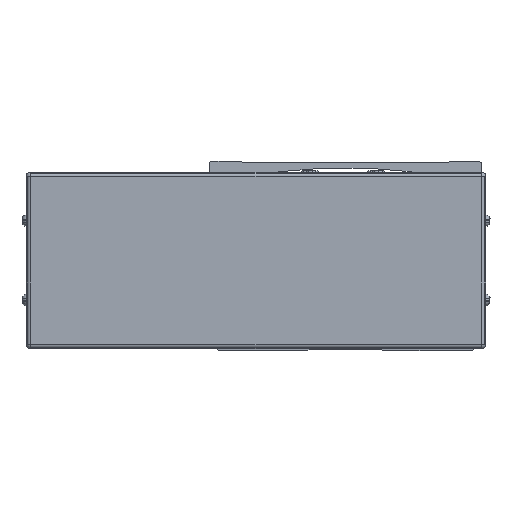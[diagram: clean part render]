
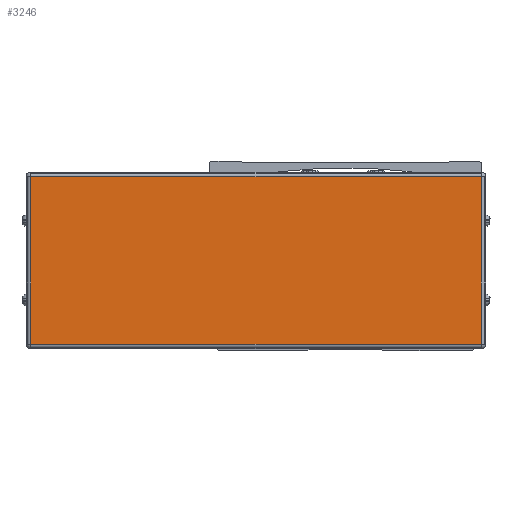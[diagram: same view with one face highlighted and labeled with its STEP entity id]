
A CAD part, front view. The second image highlights one B-rep face of the part: STEP entity #3246.
In plain terms, the highlighted planar face has unit normal (0, -1, 0).
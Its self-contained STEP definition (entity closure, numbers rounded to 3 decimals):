
#3246=ADVANCED_FACE('',(#7751),#7752,.F.);
#7751=FACE_OUTER_BOUND('',#14373,.T.);
#7752=PLANE('',#14374);
#14373=EDGE_LOOP('',(#24415,#24416,#24417,#24418));
#14374=AXIS2_PLACEMENT_3D('',#24419,#24420,#24421);
#24415=ORIENTED_EDGE('',*,*,#37406,.T.);
#24416=ORIENTED_EDGE('',*,*,#38309,.T.);
#24417=ORIENTED_EDGE('',*,*,#39579,.T.);
#24418=ORIENTED_EDGE('',*,*,#39482,.T.);
#24419=CARTESIAN_POINT('',(-340.5,-63.778,-8.));
#24420=DIRECTION('',(0.,1.0,0.));
#24421=DIRECTION('',(-1.0,0.,0.));
#37406=EDGE_CURVE('',#44938,#44936,#44939,.T.);
#38309=EDGE_CURVE('',#44936,#46475,#46477,.T.);
#39482=EDGE_CURVE('',#45268,#44938,#48347,.T.);
#39579=EDGE_CURVE('',#46475,#45268,#48493,.T.);
#44936=VERTEX_POINT('',#55776);
#44938=VERTEX_POINT('',#55778);
#44939=LINE('',#55779,#55780);
#45268=VERTEX_POINT('',#56221);
#46475=VERTEX_POINT('',#57960);
#46477=LINE('',#57962,#57963);
#48347=LINE('',#60703,#60704);
#48493=LINE('',#60914,#60915);
#55776=CARTESIAN_POINT('',(-442.7,-63.778,-46.));
#55778=CARTESIAN_POINT('',(-442.7,-63.778,30.));
#55779=CARTESIAN_POINT('',(-442.7,-63.778,-8.));
#55780=VECTOR('',#69251,10.0);
#56221=CARTESIAN_POINT('',(-238.3,-63.778,30.));
#57960=CARTESIAN_POINT('',(-238.3,-63.778,-46.));
#57962=CARTESIAN_POINT('',(-340.5,-63.778,-46.));
#57963=VECTOR('',#70366,10.0);
#60703=CARTESIAN_POINT('',(-340.5,-63.778,30.));
#60704=VECTOR('',#71858,10.0);
#60914=CARTESIAN_POINT('',(-238.3,-63.778,-8.));
#60915=VECTOR('',#71973,10.0);
#69251=DIRECTION('',(0.0,0.,-1.0));
#70366=DIRECTION('',(1.0,0.,0.));
#71858=DIRECTION('',(-1.0,0.,0.));
#71973=DIRECTION('',(0.0,0.,1.0));
